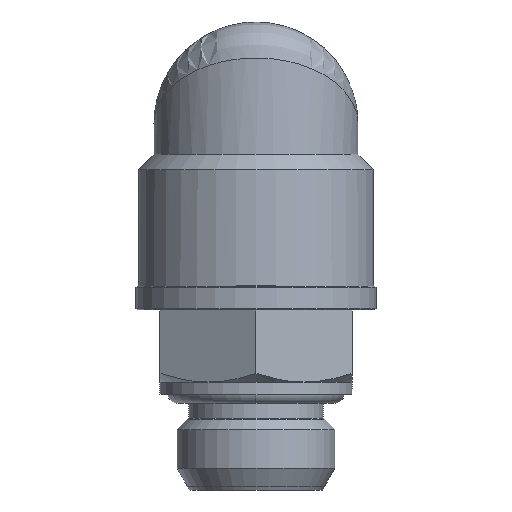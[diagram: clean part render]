
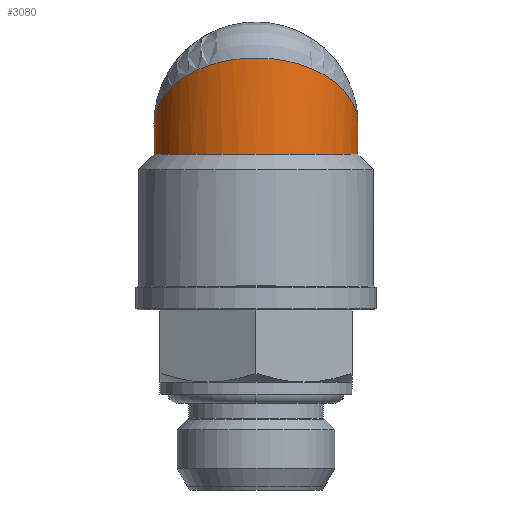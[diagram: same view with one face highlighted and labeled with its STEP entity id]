
A CAD part, left-side view. The second image highlights one B-rep face of the part: STEP entity #3080.
In plain terms, the highlighted cylindrical face has radius 8.5 mm (diameter 17 mm), a partial arc.
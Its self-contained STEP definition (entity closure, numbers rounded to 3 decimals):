
#3080=ADVANCED_FACE('', (#3090), #3100, .T.);
#9520=AXIS2_PLACEMENT_3D('Ax2Pl3d', #9530, #9540, #9550);
#9560=AXIS2_PLACEMENT_3D('Ax2Pl3d', #9570, #9580, #9590);
#9680=AXIS2_PLACEMENT_3D('Ax2Pl3d', #9690, #9700, #9710);
#9720=AXIS2_PLACEMENT_3D('Ax2Pl3d', #9730, #9740, #9750);
#17940=B_SPLINE_CURVE_WITH_KNOTS('Bspl', 3, (#17950,#17960,#17970,
#17980,#17990,#18000,#18010,#18020,#18030,#18040,#18050,#18060,#18070,
#18080,#18090,#18100,#18110,#18120,#18130,#18140,#18150,#18160,#18170,
#18180,#18190,#18200,#18210), .UNSPECIFIED., .F., .F., (4,1,1,1,1,1,1,1,
1,1,1,1,1,1,1,1,1,1,1,1,1,1,1,1,4), (0.,0.038,0.092,
0.145,0.198,0.249,0.299,
0.348,0.396,0.42,0.445,
0.469,0.507,0.531,0.555,
0.58,0.604,0.652,0.701,
0.751,0.802,0.855,0.908,
0.962,1.), .UNSPECIFIED.);
#20720=CARTESIAN_POINT('', (14.747,20.722,13.303));
#9530=CARTESIAN_POINT('HicPkt', (12.247,12.598,
15.803));
#20730=CARTESIAN_POINT('', (12.247,21.098,15.803));
#20740=CARTESIAN_POINT('', (12.247,4.098,15.803))
;
#9570=CARTESIAN_POINT('HicPkt', (12.247,12.598,
15.803));
#20750=CARTESIAN_POINT('', (14.747,4.474,13.303));
#9690=CARTESIAN_POINT('HicPkt', (12.247,12.598,
13.303));
#9730=CARTESIAN_POINT('HicPkt', (12.247,12.598,
13.303));
#17950=CARTESIAN_POINT('', (12.247,4.098,15.803));
#17960=CARTESIAN_POINT('', (11.933,4.098,16.006));
#17970=CARTESIAN_POINT('', (11.178,4.139,16.495));
#17980=CARTESIAN_POINT('', (9.998,4.365,17.258));
#17990=CARTESIAN_POINT('', (8.743,4.815,18.07))
;
#18000=CARTESIAN_POINT('', (7.574,5.456,18.826));
#18010=CARTESIAN_POINT('', (6.516,6.273,19.511));
#18020=CARTESIAN_POINT('', (5.593,7.252,20.109));
#18030=CARTESIAN_POINT('', (4.829,8.373,20.603))
;
#18040=CARTESIAN_POINT('', (4.341,9.416,20.918));
#18050=CARTESIAN_POINT('', (4.054,10.298,21.104));
#18060=CARTESIAN_POINT('', (3.891,10.984,21.209));
#18070=CARTESIAN_POINT('', (3.766,11.816,21.29))
;
#18080=CARTESIAN_POINT('', (3.73,12.665,21.314));
#18090=CARTESIAN_POINT('', (3.786,13.509,21.278));
#18100=CARTESIAN_POINT('', (3.891,14.211,21.209));
#18110=CARTESIAN_POINT('', (4.054,14.897,21.104))
;
#18120=CARTESIAN_POINT('', (4.341,15.78,20.918));
#18130=CARTESIAN_POINT('', (4.829,16.822,20.603));
#18140=CARTESIAN_POINT('', (5.593,17.944,20.109));
#18150=CARTESIAN_POINT('', (6.516,18.923,19.511))
;
#18160=CARTESIAN_POINT('', (7.574,19.74,18.826));
#18170=CARTESIAN_POINT('', (8.743,20.38,18.07));
#18180=CARTESIAN_POINT('', (9.998,20.831,17.258));
#18190=CARTESIAN_POINT('', (11.178,21.056,16.495))
;
#18200=CARTESIAN_POINT('', (11.933,21.098,16.006));
#18210=CARTESIAN_POINT('', (12.247,21.098,15.803));
#21480=CIRCLE('Circle', #9680, 8.5);
#3100=CYLINDRICAL_SURFACE('Zyl', #9720, 8.5);
#9540=DIRECTION('Axis', (-0.707,-0.,-0.707));
#9550=DIRECTION('RefDirection', (0.707,0.,-0.707));
#9580=DIRECTION('Axis', (-0.707,-0.,-0.707));
#9590=DIRECTION('RefDirection', (0.707,0.,
-0.707));
#9700=DIRECTION('Axis', (0.,0.,-1.)
);
#9710=DIRECTION('RefDirection', (1.,0.,
0.));
#9740=DIRECTION('Axis', (0.,0.,1.));
#9750=DIRECTION('RefDirection', (1.,0.,-0.));
#26600=EDGE_CURVE('', #26610, #26580, #26620, .T.);
#26660=EDGE_CURVE('', #26670, #26640, #26680, .T.);
#26720=EDGE_CURVE('', #26670, #26580, #21480, .T.);
#26730=EDGE_CURVE('', #26640, #26610, #26740, .T.);
#30120=EDGE_LOOP('Edge_loop', (#30130,#30140,#30150,#30160));
#26620=ELLIPSE('Ellipse', #9520, 12.021, 8.5);
#26680=ELLIPSE('Ellipse', #9560, 12.021, 8.5);
#3090=FACE_OUTER_BOUND('Face_outer_bound', #30120, .T.);
#30130=ORIENTED_EDGE('', *, *, #26660, .T.);
#30140=ORIENTED_EDGE('', *, *, #26730, .T.);
#30150=ORIENTED_EDGE('', *, *, #26600, .T.);
#30160=ORIENTED_EDGE('', *, *, #26720, .F.);
#26740=SURFACE_CURVE('', #17940, (#3100), .CURVE_3D.);
#26580=VERTEX_POINT('', #20720);
#26610=VERTEX_POINT('', #20730);
#26640=VERTEX_POINT('', #20740);
#26670=VERTEX_POINT('', #20750);
